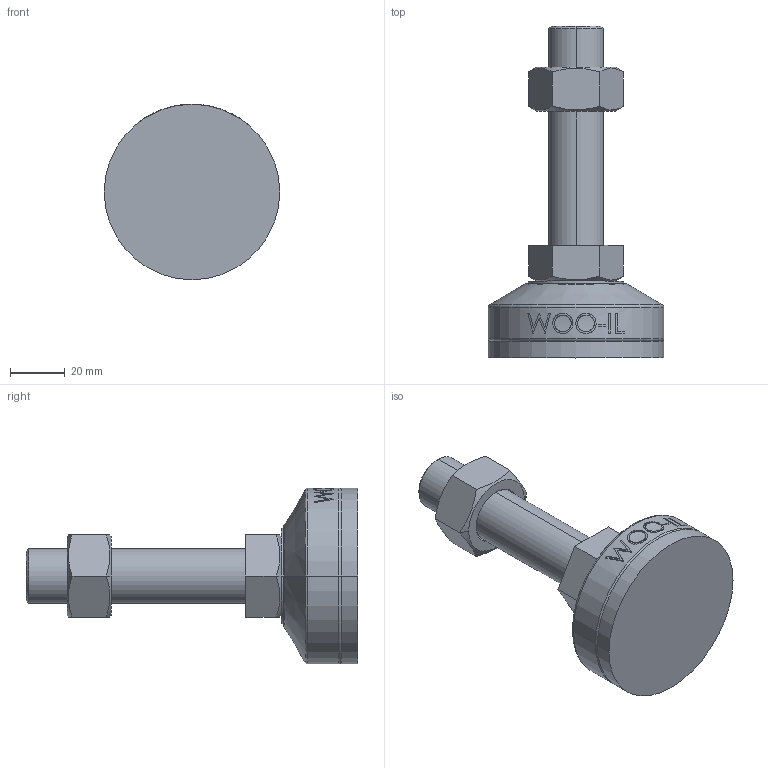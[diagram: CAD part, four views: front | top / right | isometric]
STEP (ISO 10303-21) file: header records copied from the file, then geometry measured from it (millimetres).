
FILE_DESCRIPTION (( 'STEP AP214' ), '1' );
FILE_NAME ('MFZR64-M20-80.step', '2021-03-29T06:57:22', ( '' ), ( '' ), 'SwSTEP 2.0', 'SolidWorks 2019', '' );
FILE_SCHEMA (( 'AUTOMOTIVE_DESIGN' ));
Length unit declared in the file: millimetre
Products named in the file (2): MFZR64-M20-80
Bounding box: 64 x 121 x 64 mm (x, y, z)
Volume: 120877.7 mm3; surface area: 22291.5 mm2
Topology: 3 solids, 3 shells, 102 faces, 235 edges, 150 vertices
Faces by surface type: plane 48, cylinder 18, bspline 16, cone 14, torus 6
Entity records: 4428 total; most frequent: CARTESIAN_POINT 2173, ORIENTED_EDGE 470, DIRECTION 415, EDGE_CURVE 235, AXIS2_PLACEMENT_3D 158, VERTEX_POINT 150, EDGE_LOOP 115, ADVANCED_FACE 102
